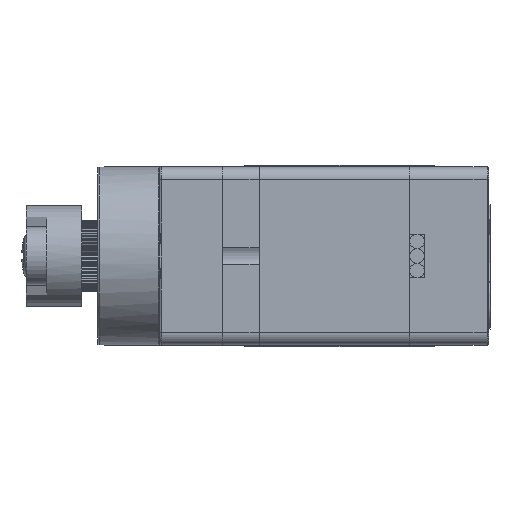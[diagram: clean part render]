
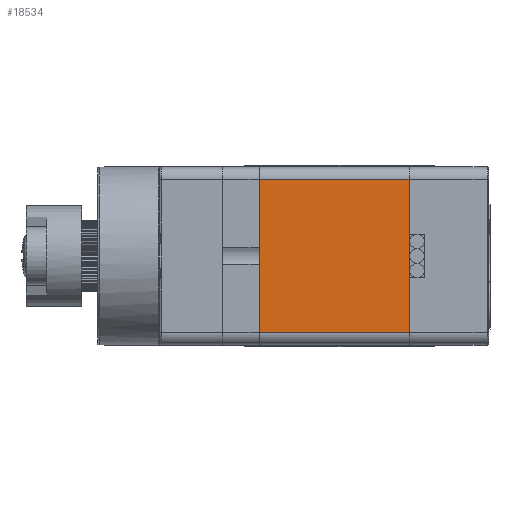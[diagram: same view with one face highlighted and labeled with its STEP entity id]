
A CAD part, left-side view. The second image highlights one B-rep face of the part: STEP entity #18534.
In plain terms, the highlighted planar face has unit normal (-1, 0, 0).
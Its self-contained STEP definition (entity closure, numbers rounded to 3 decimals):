
#1015=PLANE('',#19464);
#1601=FACE_OUTER_BOUND('',#2472,.T.);
#2472=EDGE_LOOP('',(#12563,#12564,#12565,#12566));
#3469=LINE('',#25436,#5203);
#3481=LINE('',#25471,#5215);
#3482=LINE('',#25474,#5216);
#3483=LINE('',#25475,#5217);
#5203=VECTOR('',#20873,1000.);
#5215=VECTOR('',#20907,1000.);
#5216=VECTOR('',#20912,1000.);
#5217=VECTOR('',#20913,1000.);
#7476=VERTEX_POINT('',#25429);
#7479=VERTEX_POINT('',#25434);
#7490=VERTEX_POINT('',#25468);
#7491=VERTEX_POINT('',#25470);
#9646=EDGE_CURVE('',#7479,#7476,#3469,.T.);
#9663=EDGE_CURVE('',#7491,#7490,#3481,.T.);
#9665=EDGE_CURVE('',#7490,#7476,#3482,.T.);
#9666=EDGE_CURVE('',#7491,#7479,#3483,.T.);
#12563=ORIENTED_EDGE('',*,*,#9665,.T.);
#12564=ORIENTED_EDGE('',*,*,#9646,.F.);
#12565=ORIENTED_EDGE('',*,*,#9666,.F.);
#12566=ORIENTED_EDGE('',*,*,#9663,.T.);
#18534=ADVANCED_FACE('',(#1601),#1015,.F.);
#19464=AXIS2_PLACEMENT_3D('',#25473,#20910,#20911);
#20873=DIRECTION('',(0.,-1.,0.));
#20907=DIRECTION('',(0.,-1.,0.));
#20910=DIRECTION('center_axis',(1.,0.,0.));
#20911=DIRECTION('ref_axis',(0.,0.,-1.));
#20912=DIRECTION('',(0.,0.,1.));
#20913=DIRECTION('',(0.,0.,1.));
#25429=CARTESIAN_POINT('',(-11.25,-5.15,5.25));
#25434=CARTESIAN_POINT('',(-11.25,5.15,5.25));
#25436=CARTESIAN_POINT('',(-11.25,5.15,5.25));
#25468=CARTESIAN_POINT('',(-11.25,-5.15,-5.25));
#25470=CARTESIAN_POINT('',(-11.25,5.15,-5.25));
#25471=CARTESIAN_POINT('',(-11.25,5.15,-5.25));
#25473=CARTESIAN_POINT('Origin',(-11.25,5.15,5.25));
#25474=CARTESIAN_POINT('',(-11.25,-5.15,5.25));
#25475=CARTESIAN_POINT('',(-11.25,5.15,5.25));
